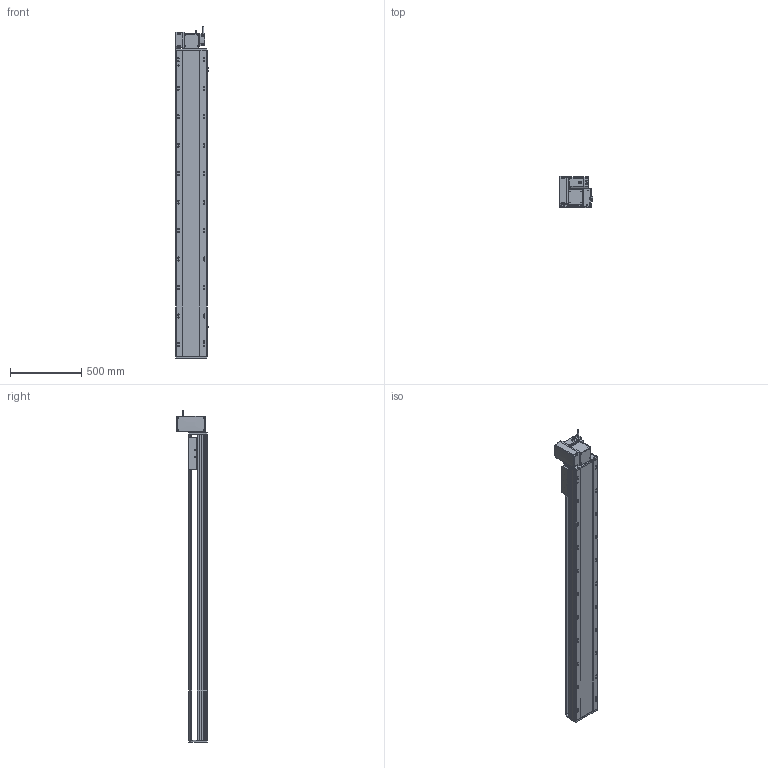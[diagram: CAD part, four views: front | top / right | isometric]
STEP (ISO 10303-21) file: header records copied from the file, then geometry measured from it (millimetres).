
FILE_DESCRIPTION (( 'STEP AP214' ), '1' );
FILE_NAME ('RTB22S-XX-1800-LW-M75-C4.STEP', '2025-12-12T05:59:30', ( '' ), ( '' ), 'SwSTEP 2.0', 'SolidWorks 2018', '' );
FILE_SCHEMA (( 'AUTOMOTIVE_DESIGN' ));
Length unit declared in the file: millimetre
Products named in the file (14): RTB22S-GY-018P^RTB22S-LW-々湍釱蚾饜_RTB22S-XX-XX-LW-M75-C4; RTH22-GY-013外置感应片^RTB22S-XX-XX-LW-M75-C4; RTB22S-L-004賑釱^RTB22S-XX-XX-LW-M75-C4; RTB22S-GY-017P^RTB22S-LW-々湍釱蚾饜_RTB22S-XX-XX-LW-M75-C4; 750W萇儂^RTB22S-XX-XX-LW-M75-C4; RTB22S-XX-1800-LW-M75-C4; RTB22S-GY-014--々湍釱^RTB22S-LW-々湍釱蚾饜_RTB22S-XX-XX-LW-M75-C4; RTB22S-GY-007奻裔^RTB22S-XX-XX-LW-M75-C4; RTB22S-LW-々湍釱蚾饜^RTB22S-XX-XX-LW-M75-C4; RTB22S-GY-001耜裔^RTB22S-XX-XX-LW-M75-C4; RTB22S-GY-005P^RTB22S-LW-々湍釱蚾饜_RTB22S-XX-XX-LW-M75-C4; RTB22S-GY-008-M75--萇儂啣^RTB22S-LW-々湍釱蚾饜_RTB22S-XX-XX-LW-M75-C4; RTB22S-L-011菁釱^RTB22S-XX-XX-LW-M75-C4; OMRON EE-SX672 传感器^RTB22S-XX-XX-LW-M75-C4
Assembly tree (16 placements, depth 3):
  RTB22S-XX-1800-LW-M75-C4
    RTB22S-L-011菁釱^RTB22S-XX-XX-LW-M75-C4
    RTB22S-GY-001耜裔^RTB22S-XX-XX-LW-M75-C4
    750W萇儂^RTB22S-XX-XX-LW-M75-C4
    RTB22S-GY-007奻裔^RTB22S-XX-XX-LW-M75-C4
    RTB22S-L-004賑釱^RTB22S-XX-XX-LW-M75-C4
    RTH22-GY-013外置感应片^RTB22S-XX-XX-LW-M75-C4
    OMRON EE-SX672 传感器^RTB22S-XX-XX-LW-M75-C4  x3
    RTB22S-LW-々湍釱蚾饜^RTB22S-XX-XX-LW-M75-C4
      RTB22S-GY-014--々湍釱^RTB22S-LW-々湍釱蚾饜_RTB22S-XX-XX-LW-M75-C4
      RTB22S-GY-017P^RTB22S-LW-々湍釱蚾饜_RTB22S-XX-XX-LW-M75-C4  x2
      RTB22S-GY-005P^RTB22S-LW-々湍釱蚾饜_RTB22S-XX-XX-LW-M75-C4
      RTB22S-GY-008-M75--萇儂啣^RTB22S-LW-々湍釱蚾饜_RTB22S-XX-XX-LW-M75-C4
      RTB22S-GY-018P^RTB22S-LW-々湍釱蚾饜_RTB22S-XX-XX-LW-M75-C4
Bounding box: 238.5 x 215.5 x 2332.2 mm (x, y, z)
Volume: 30612968.6 mm3; surface area: 3147150.3 mm2
Topology: 15 solids, 15 shells, 2037 faces, 5536 edges, 3542 vertices
Faces by surface type: plane 921, cylinder 658, bspline 296, cone 150, sphere 8, torus 4
Entity records: 54742 total; most frequent: CARTESIAN_POINT 15616, ORIENTED_EDGE 7836, DIRECTION 7592, EDGE_CURVE 3918, AXIS2_PLACEMENT_3D 2698, VERTEX_POINT 2546, LINE 2196, VECTOR 2196
